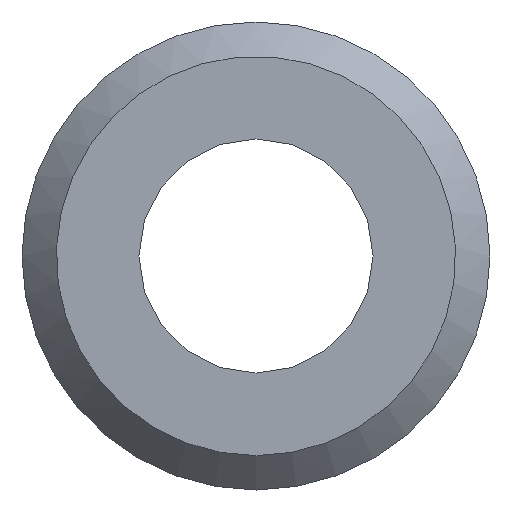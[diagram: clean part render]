
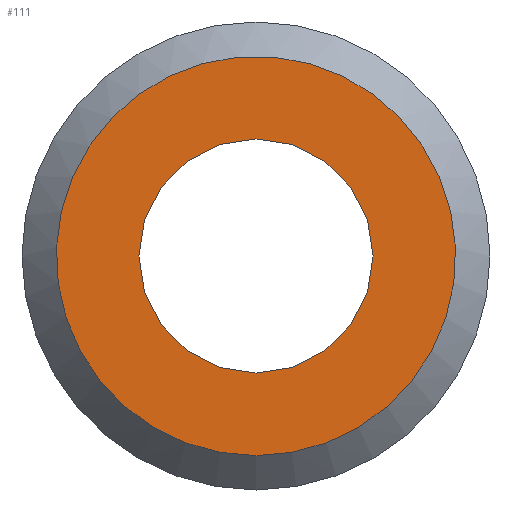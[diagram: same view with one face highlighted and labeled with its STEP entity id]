
A CAD part, front view. The second image highlights one B-rep face of the part: STEP entity #111.
In plain terms, the highlighted planar face has unit normal (0, -1, 0).
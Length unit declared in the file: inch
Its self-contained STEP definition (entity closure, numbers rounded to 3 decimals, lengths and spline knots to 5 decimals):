
#16=FACE_BOUND('',#33,.T.);
#18=PLANE('',#139);
#25=FACE_OUTER_BOUND('',#32,.T.);
#32=EDGE_LOOP('',(#96));
#33=EDGE_LOOP('',(#97,#98));
#50=CIRCLE('',#138,0.052);
#51=CIRCLE('',#140,0.0305);
#52=CIRCLE('',#141,0.0305);
#60=VERTEX_POINT('',#202);
#61=VERTEX_POINT('',#206);
#62=VERTEX_POINT('',#207);
#72=EDGE_CURVE('',#60,#60,#50,.T.);
#74=EDGE_CURVE('',#61,#62,#51,.T.);
#75=EDGE_CURVE('',#62,#61,#52,.T.);
#96=ORIENTED_EDGE('',*,*,#72,.F.);
#97=ORIENTED_EDGE('',*,*,#74,.F.);
#98=ORIENTED_EDGE('',*,*,#75,.F.);
#111=ADVANCED_FACE('',(#25,#16),#18,.T.);
#138=AXIS2_PLACEMENT_3D('',#203,#169,#170);
#139=AXIS2_PLACEMENT_3D('',#205,#172,#173);
#140=AXIS2_PLACEMENT_3D('',#208,#174,#175);
#141=AXIS2_PLACEMENT_3D('',#209,#176,#177);
#169=DIRECTION('center_axis',(0.,1.,0.));
#170=DIRECTION('ref_axis',(0.,0.,1.));
#172=DIRECTION('center_axis',(0.,-1.,0.));
#173=DIRECTION('ref_axis',(0.,0.,-1.));
#174=DIRECTION('center_axis',(0.,-1.,0.));
#175=DIRECTION('ref_axis',(1.,0.,0.));
#176=DIRECTION('center_axis',(0.,-1.,0.));
#177=DIRECTION('ref_axis',(1.,0.,0.));
#202=CARTESIAN_POINT('',(0.,0.,-0.052));
#203=CARTESIAN_POINT('Origin',(0.,0.,0.));
#205=CARTESIAN_POINT('Origin',(0.,0.,-0.0305));
#206=CARTESIAN_POINT('',(0.,0.,-0.0305));
#207=CARTESIAN_POINT('',(0.,0.,0.0305));
#208=CARTESIAN_POINT('Origin',(0.,0.,0.));
#209=CARTESIAN_POINT('Origin',(0.,0.,0.));
